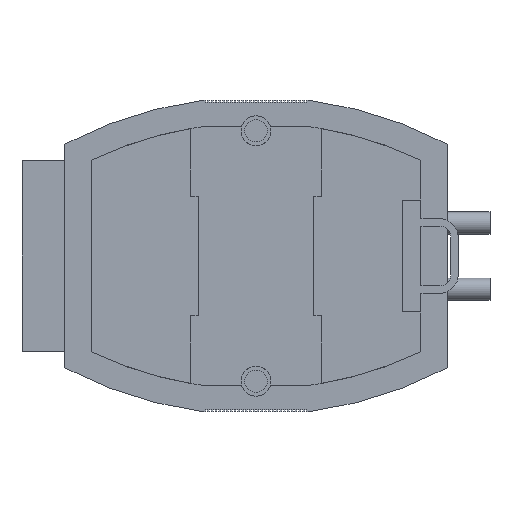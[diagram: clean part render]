
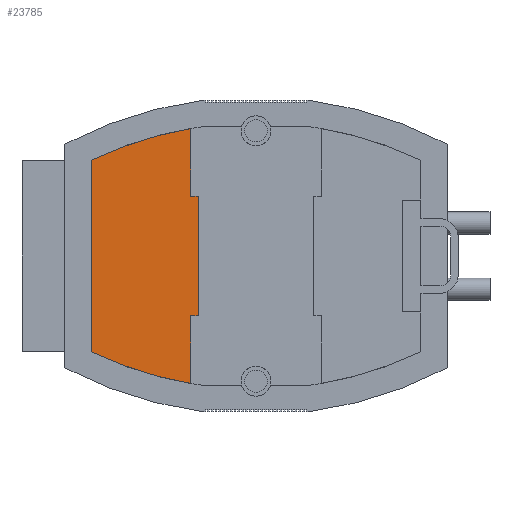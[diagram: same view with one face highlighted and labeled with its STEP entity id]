
A CAD part, front view. The second image highlights one B-rep face of the part: STEP entity #23785.
In plain terms, the highlighted planar face has unit normal (0, -1, 0).
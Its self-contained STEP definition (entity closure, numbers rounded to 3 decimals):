
#157 = VERTEX_POINT ( 'NONE', #1242 ) ;
#170 = CARTESIAN_POINT ( 'NONE',  ( -17.5, -8., 16. ) ) ;
#325 = EDGE_CURVE ( 'NONE', #19480, #28965, #21911, .T. ) ;
#341 = CARTESIAN_POINT ( 'NONE',  ( -15.5, -8., -16. ) ) ;
#953 = ORIENTED_EDGE ( 'NONE', *, *, #9521, .F. ) ;
#1242 = CARTESIAN_POINT ( 'NONE',  ( -44.2, -8., 25.676 ) ) ;
#1751 = VECTOR ( 'NONE', #11685, 1000. ) ;
#2507 = LINE ( 'NONE', #9199, #1751 ) ;
#2694 = CARTESIAN_POINT ( 'NONE',  ( -17.5, -8., -34.145 ) ) ;
#2863 = CARTESIAN_POINT ( 'NONE',  ( -17.5, -8., 34.145 ) ) ;
#3785 = VECTOR ( 'NONE', #20558, 1000. ) ;
#3812 = DIRECTION ( 'NONE',  ( 0., -1., 0. ) ) ;
#4292 = VECTOR ( 'NONE', #12517, 1000. ) ;
#4836 = ORIENTED_EDGE ( 'NONE', *, *, #29601, .T. ) ;
#5083 = DIRECTION ( 'NONE',  ( 0., 0., -1. ) ) ;
#5240 = CIRCLE ( 'NONE', #28502, 103. ) ;
#5550 = LINE ( 'NONE', #10756, #31756 ) ;
#5637 = CARTESIAN_POINT ( 'NONE',  ( -15.5, -8., 16. ) ) ;
#6025 = VERTEX_POINT ( 'NONE', #8343 ) ;
#6101 = DIRECTION ( 'NONE',  ( 0., -1., 0. ) ) ;
#7568 = CARTESIAN_POINT ( 'NONE',  ( 0., -8., 67.358 ) ) ;
#8165 = DIRECTION ( 'NONE',  ( 0., 0., -1. ) ) ;
#8343 = CARTESIAN_POINT ( 'NONE',  ( -17.5, -8., -16. ) ) ;
#9199 = CARTESIAN_POINT ( 'NONE',  ( -15.5, -8., -16. ) ) ;
#9521 = EDGE_CURVE ( 'NONE', #12004, #13091, #23735, .T. ) ;
#10719 = FACE_OUTER_BOUND ( 'NONE', #23604, .T. ) ;
#10756 = CARTESIAN_POINT ( 'NONE',  ( -44.2, -8., -25.676 ) ) ;
#11460 = DIRECTION ( 'NONE',  ( 0., 0., -1. ) ) ;
#11685 = DIRECTION ( 'NONE',  ( -1., 0., 0. ) ) ;
#12004 = VERTEX_POINT ( 'NONE', #25741 ) ;
#12009 = ORIENTED_EDGE ( 'NONE', *, *, #18231, .T. ) ;
#12517 = DIRECTION ( 'NONE',  ( 1., 0., 0. ) ) ;
#12656 = LINE ( 'NONE', #15528, #3785 ) ;
#13091 = VERTEX_POINT ( 'NONE', #170 ) ;
#13521 = PLANE ( 'NONE',  #15462 ) ;
#13561 = DIRECTION ( 'NONE',  ( 0., 0., -1. ) ) ;
#13755 = VECTOR ( 'NONE', #25676, 1000. ) ;
#14074 = EDGE_CURVE ( 'NONE', #28558, #30363, #12656, .T. ) ;
#15462 = AXIS2_PLACEMENT_3D ( 'NONE', #30975, #3812, #11460 ) ;
#15528 = CARTESIAN_POINT ( 'NONE',  ( -15.5, -8., 16. ) ) ;
#17197 = VECTOR ( 'NONE', #17861, 1000. ) ;
#17861 = DIRECTION ( 'NONE',  ( 0., 0., -1. ) ) ;
#18231 = EDGE_CURVE ( 'NONE', #157, #19480, #5550, .T. ) ;
#18619 = AXIS2_PLACEMENT_3D ( 'NONE', #7568, #27059, #5083 ) ;
#19480 = VERTEX_POINT ( 'NONE', #29374 ) ;
#20159 = ORIENTED_EDGE ( 'NONE', *, *, #25246, .F. ) ;
#20166 = CARTESIAN_POINT ( 'NONE',  ( -17.5, -8., 16. ) ) ;
#20558 = DIRECTION ( 'NONE',  ( 0., 0., -1. ) ) ;
#20929 = CARTESIAN_POINT ( 'NONE',  ( -17.5, -8., -16. ) ) ;
#21462 = LINE ( 'NONE', #20929, #13755 ) ;
#21479 = EDGE_CURVE ( 'NONE', #13091, #28558, #28588, .T. ) ;
#21847 = ORIENTED_EDGE ( 'NONE', *, *, #14074, .F. ) ;
#21911 = CIRCLE ( 'NONE', #18619, 103. ) ;
#23604 = EDGE_LOOP ( 'NONE', ( #20159, #28870, #21847, #24612, #953, #4836, #12009, #29369 ) ) ;
#23735 = LINE ( 'NONE', #2863, #17197 ) ;
#23785 = ADVANCED_FACE ( 'NONE', ( #10719 ), #13521, .T. ) ;
#24612 = ORIENTED_EDGE ( 'NONE', *, *, #21479, .F. ) ;
#25246 = EDGE_CURVE ( 'NONE', #6025, #28965, #21462, .T. ) ;
#25676 = DIRECTION ( 'NONE',  ( 0., 0., -1. ) ) ;
#25741 = CARTESIAN_POINT ( 'NONE',  ( -17.5, -8., 34.145 ) ) ;
#27059 = DIRECTION ( 'NONE',  ( 0., -1., 0. ) ) ;
#28502 = AXIS2_PLACEMENT_3D ( 'NONE', #30343, #6101, #8165 ) ;
#28558 = VERTEX_POINT ( 'NONE', #5637 ) ;
#28588 = LINE ( 'NONE', #20166, #4292 ) ;
#28870 = ORIENTED_EDGE ( 'NONE', *, *, #29815, .F. ) ;
#28965 = VERTEX_POINT ( 'NONE', #2694 ) ;
#29369 = ORIENTED_EDGE ( 'NONE', *, *, #325, .T. ) ;
#29374 = CARTESIAN_POINT ( 'NONE',  ( -44.2, -8., -25.676 ) ) ;
#29601 = EDGE_CURVE ( 'NONE', #12004, #157, #5240, .T. ) ;
#29815 = EDGE_CURVE ( 'NONE', #30363, #6025, #2507, .T. ) ;
#30343 = CARTESIAN_POINT ( 'NONE',  ( 0., -8., -67.358 ) ) ;
#30363 = VERTEX_POINT ( 'NONE', #341 ) ;
#30975 = CARTESIAN_POINT ( 'NONE',  ( 0., -8., 67.358 ) ) ;
#31756 = VECTOR ( 'NONE', #13561, 1000. ) ;
